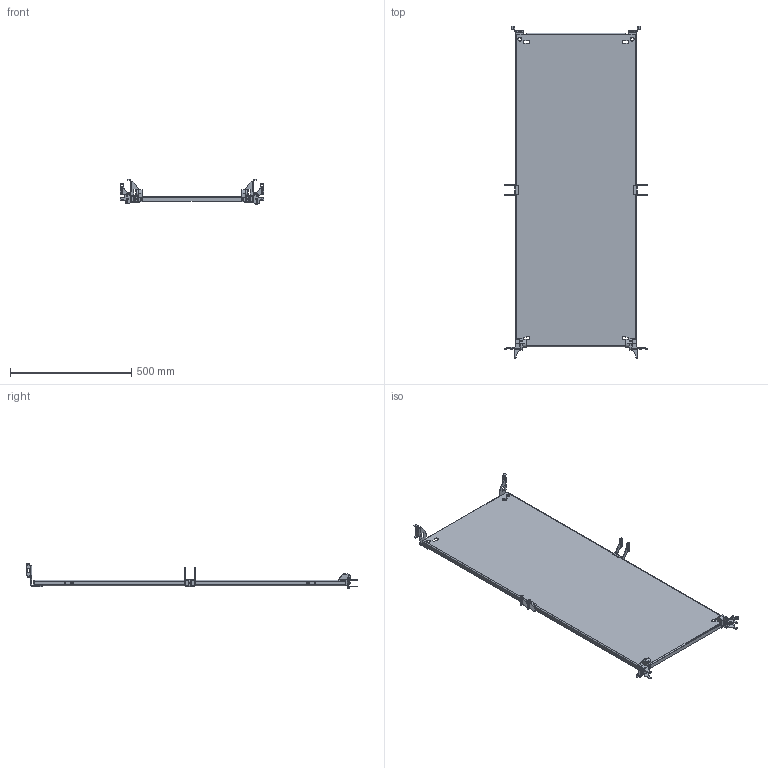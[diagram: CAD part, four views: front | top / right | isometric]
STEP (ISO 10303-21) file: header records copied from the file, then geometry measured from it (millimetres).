
FILE_DESCRIPTION (( 'STEP AP214' ), '1' );
FILE_NAME ('MSD 140.60 ÑÁ Ìîíòàæíàÿ ïàíåëü â ñáîðå.STEP', '2023-12-11T04:44:17', ( '' ), ( '' ), 'SwSTEP 2.0', 'SolidWorks 2019', '' );
FILE_SCHEMA (( 'AUTOMOTIVE_DESIGN' ));
Length unit declared in the file: millimetre
Products named in the file (8): BMD 6 Ôèêñàòîð ìîíòàæíîé ïàíåëè; TS-010_L Âåðõíèé äåðæàòåëü ìîíòàæíîé ïàíåëè; MSD 140.60 ÑÁ Ìîíòàæíàÿ ïàíåëü â ñáîðå; TS-010_R Âåðõíèé äåðæàòåëü ìîíòàæíîé ïàíåëè; TS-011_L Íèæíèé äåðæàòåëü ìîíòàæíîé ïàíåëè; TS-012 Íèæíèé äåðæàòåëü ìîíòàæíîé ïàíåëè; TS-011_R Íèæíèé äåðæàòåëü ìîíòàæíîé ïàíåëè; MSD X.Y Ìîíòàæíàÿ ïàíåëü_MSD 140.60 Œ®­â ¦­ ï ¯ ­¥«ì
Assembly tree (9 placements, depth 2):
  MSD 140.60 ÑÁ Ìîíòàæíàÿ ïàíåëü â ñáîðå
    MSD X.Y Ìîíòàæíàÿ ïàíåëü_MSD 140.60 Œ®­â ¦­ ï ¯ ­¥«ì
    TS-011_L Íèæíèé äåðæàòåëü ìîíòàæíîé ïàíåëè
    TS-011_R Íèæíèé äåðæàòåëü ìîíòàæíîé ïàíåëè
    TS-010_R Âåðõíèé äåðæàòåëü ìîíòàæíîé ïàíåëè
    TS-010_L Âåðõíèé äåðæàòåëü ìîíòàæíîé ïàíåëè
    TS-012 Íèæíèé äåðæàòåëü ìîíòàæíîé ïàíåëè  x2
    BMD 6 Ôèêñàòîð ìîíòàæíîé ïàíåëè  x2
Bounding box: 594 x 1371.5 x 103.7 mm (x, y, z)
Volume: 2029789.4 mm3; surface area: 1600639.4 mm2
Topology: 9 solids, 9 shells, 802 faces, 2178 edges, 1400 vertices
Faces by surface type: plane 450, cylinder 340, bspline 8, cone 4
Entity records: 20151 total; most frequent: CARTESIAN_POINT 3895, ORIENTED_EDGE 3348, DIRECTION 3328, EDGE_CURVE 1674, LINE 1148, VECTOR 1148, AXIS2_PLACEMENT_3D 1090, VERTEX_POINT 1078
